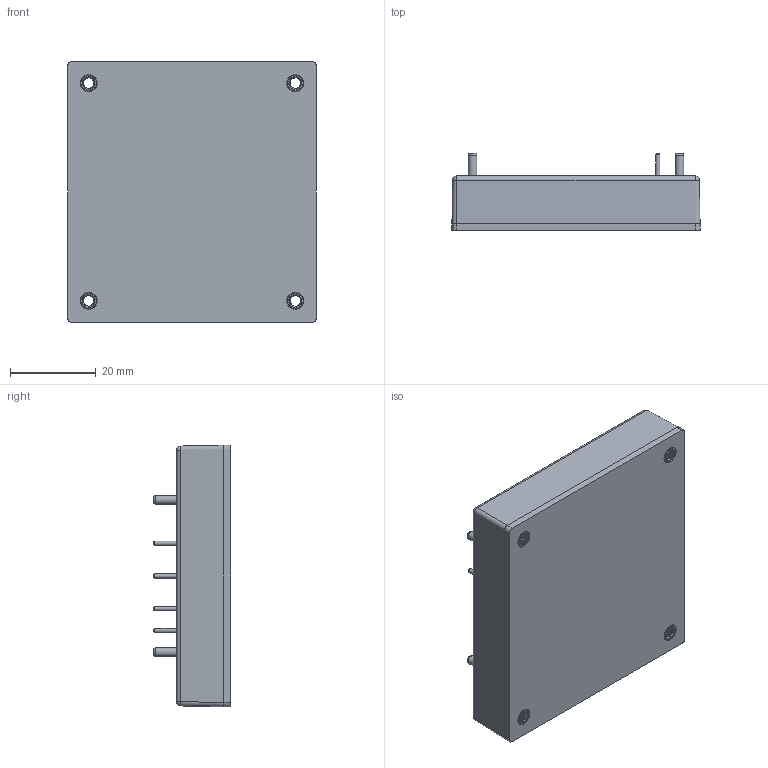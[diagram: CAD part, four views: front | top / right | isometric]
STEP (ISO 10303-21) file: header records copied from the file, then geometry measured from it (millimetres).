
FILE_DESCRIPTION (( 'STEP AP203' ), '1' );
FILE_NAME ('CHB500W¦¨«~¹ÏOption-PC 2025.05.16.STEP', '2025-05-16T09:27:01', ( '' ), ( '' ), 'SwSTEP 2.0', 'SolidWorks 2020', '' );
FILE_SCHEMA (( 'CONFIG_CONTROL_DESIGN' ));
Length unit declared in the file: millimetre
Products named in the file (1): CHB500W成品圖Option-PC 2025.05.16
Bounding box: 57.9 x 18 x 61 mm (x, y, z)
Volume: 44022.5 mm3; surface area: 11833.5 mm2
Topology: 1 solids, 7 shells, 528 faces, 1409 edges, 932 vertices
Faces by surface type: plane 297, cylinder 120, cone 95, bspline 8, sphere 4, torus 4
Full cylindrical faces by diameter (mm): 1 x5, 1.2 x5, 2 x4, 2.2 x4, 4 x4, 4.3 x4, 4.6 x4
Entity records: 25722 total; most frequent: CARTESIAN_POINT 12817, DIRECTION 2655, ORIENTED_EDGE 2646, EDGE_CURVE 1323, AXIS2_PLACEMENT_3D 992, VERTEX_POINT 906, LINE 671, VECTOR 671
